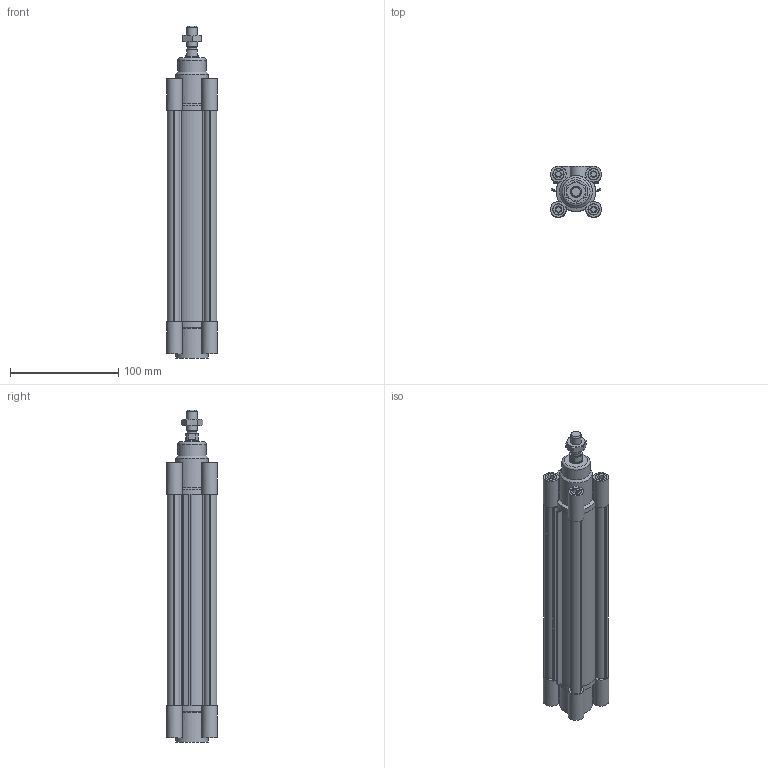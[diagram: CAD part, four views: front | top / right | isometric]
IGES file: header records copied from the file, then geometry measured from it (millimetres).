
Global section: file name: No Iges File Name specified; native system: Autodesk Inventor 2012; preprocessor: AutoDesk Inventor Iges Exporter R2012; author: pilonfr1; date: 20120128.095027; units: millimetre
Bounding box: 47 x 47 x 306.5 mm (x, y, z)
Volume: 259543.7 mm3; surface area: 136561.3 mm2
Topology: 5 solids, 5 shells, 316 faces, 788 edges, 522 vertices
Faces by surface type: plane 200, cylinder 54, revolution 39, cone 22, torus 1
Full cylindrical faces by diameter (mm): 8.8 x1, 10 x9, 11.5 x1, 12 x1, 26 x1, 30 x2, 32 x3
